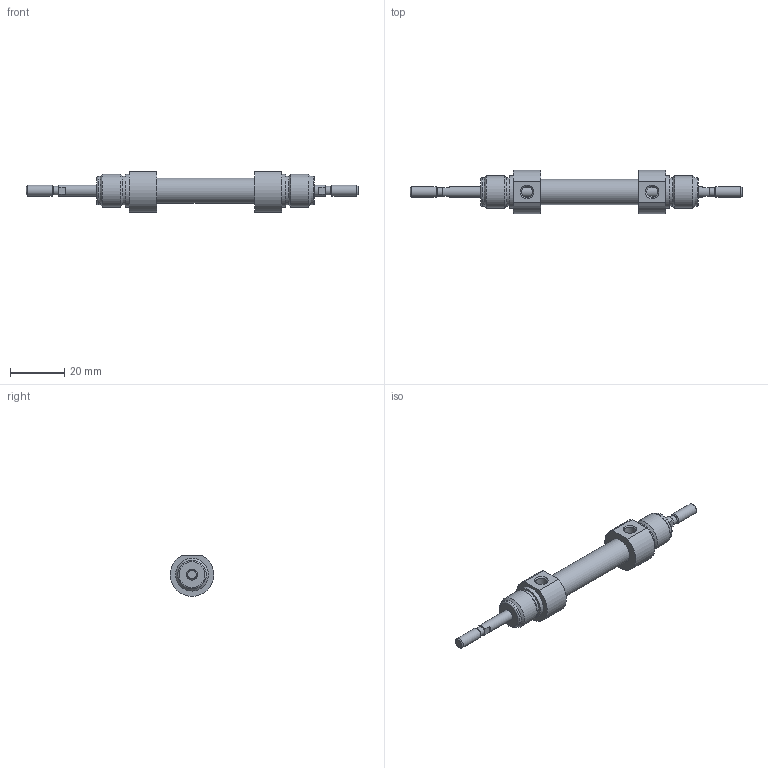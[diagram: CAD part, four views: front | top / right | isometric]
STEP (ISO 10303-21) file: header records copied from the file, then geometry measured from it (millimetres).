
FILE_DESCRIPTION( ( 'STEP AP203' ), '1' );
FILE_NAME( '//expscmdclustefs.cadenas.external/client_exchange/iodir/jobs/output/wkb68260275_no0/STEP/M101-08-0010--__0__2_03.stp', ' ', ( ' ' ), ( ' ' ), 'PSStep 15.0.47', 'PARTsolutions', ' ' );
FILE_SCHEMA( ( 'CONFIG_CONTROL_DESIGN' ) );
Length unit declared in the file: millimetre
Products named in the file (3): M101-08-0010-- [0]; HI_M101-08-0010---[0]-z; HI_M101-08-0010---[0]-k
Assembly tree (2 placements, depth 2):
  M101-08-0010-- [0]
    HI_M101-08-0010---[0]-z
    HI_M101-08-0010---[0]-k
Bounding box: 122 x 15.98 x 14.97 mm (x, y, z)
Volume: 8879.6 mm3; surface area: 6597.4 mm2
Topology: 2 solids, 2 shells, 71 faces, 145 edges, 88 vertices
Faces by surface type: plane 32, cylinder 23, cone 14, torus 2
Full cylindrical faces by diameter (mm): 3.141 x2, 4 x6, 4.134 x2, 8 x2, 9.3 x1, 10.466 x4, 12 x4
Entity records: 1832 total; most frequent: CARTESIAN_POINT 352, DIRECTION 312, ORIENTED_EDGE 212, AXIS2_PLACEMENT_3D 140, EDGE_LOOP 120, EDGE_CURVE 106, FACE_OUTER_BOUND 94, VERTEX_POINT 82
